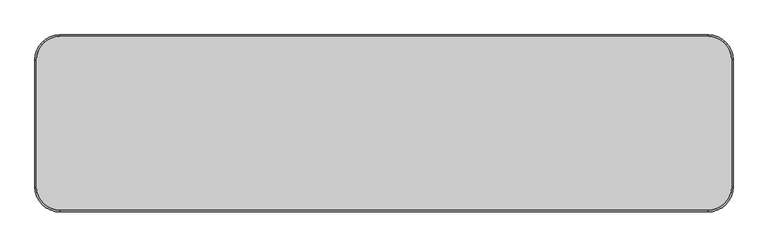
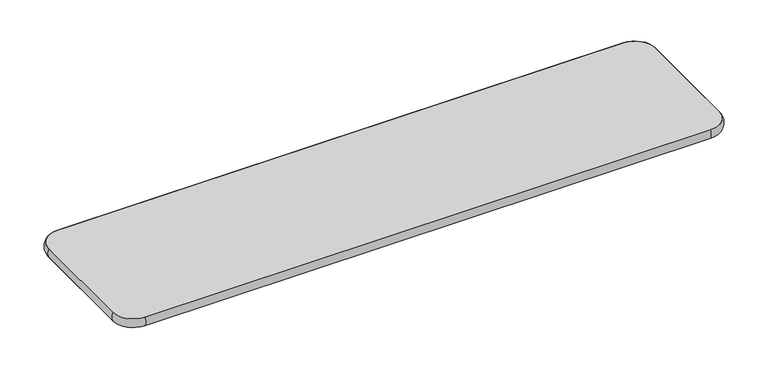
"""IFC4 building model written with IfcOpenShell, lengths in millimetres: furniture geometry, Banco para refeitório : Banco para refeitório 120x30cm cód 40470.4."""

from ifc_helpers import new_model, si_unit, point, frame, frame_2d, origin, place, context, project, spatial, polyline, circle_curve, ellipse_curve, trimmed, segment, composite_curve, outline, extrude, source, transform, mapped, element, save
from ifc_brep_helpers import plane_surface, cylinder_surface, revolved_surface, advanced_brep


def furniture_bbbb178f(model_context):
    return source(origin(), model_context, "Body", "SolidModel", [
        advanced_brep(
        [(600.0, -110.0, 380.0), (560.0, -150.0, 380.0), (560.0, -150.0, 362.0), (600.0, -110.0, 362.0), (600.0, 110.0, 362.0), (600.0, 110.0, 380.0), (560.0, 150.0, 380.0), (560.0, 150.0, 362.0), (-560.0, 150.0, 362.0), (-560.0, 150.0, 380.0), (-600.0, 110.0, 380.0), (-600.0, 110.0, 362.0), (-600.0, -110.0, 362.0), (-600.0, -110.0, 380.0), (-560.0, -150.0, 380.0), (-560.0, -150.0, 362.0)],
        [
            (0, 1, circle_curve(frame((560.0, -110.0, 380.0), z_axis=(0.0, 0.0, -1.0), x_axis=(0.0, -1.0, 0.0)), 40.0)),
            (1, 2, circle_curve(frame((560.0, -136.6032084, 371.0), z_axis=(1.0, 0.0, 0.0), x_axis=(0.0, 1.0, 0.0)), 16.1392077)),
            (2, 3, circle_curve(frame((560.0, -110.0, 362.0), z_axis=(0.0, 0.0, 1.0), x_axis=(0.0, -1.0, 0.0)), 40.0)),
            (3, 0, circle_curve(frame((586.6032084, -110.0, 371.0), z_axis=(0.0, -1.0, 0.0), x_axis=(-1.0, 0.0, 0.0)), 16.1392077)),
            (2, 1),
            (0, 3),
            (3, 4),
            (4, 5, circle_curve(frame((586.6032084, 110.0, 371.0), z_axis=(0.0, -1.0, 0.0), x_axis=(-1.0, 0.0, 0.0)), 16.1392077)),
            (5, 0),
            (5, 4),
            (6, 5, circle_curve(frame((560.0, 110.0, 380.0), z_axis=(0.0, 0.0, -1.0), x_axis=(1.0, 0.0, 0.0)), 40.0)),
            (4, 7, circle_curve(frame((560.0, 110.0, 362.0), z_axis=(0.0, 0.0, 1.0), x_axis=(1.0, 0.0, 0.0)), 40.0)),
            (7, 6, circle_curve(frame((560.0, 136.6032084, 371.0), z_axis=(1.0, 0.0, 0.0), x_axis=(0.0, -1.0, 0.0)), 16.1392077)),
            (6, 7),
            (7, 8),
            (8, 9, circle_curve(frame((-560.0, 136.6032084, 371.0), z_axis=(1.0, 0.0, 0.0), x_axis=(0.0, -1.0, 0.0)), 16.1392077)),
            (9, 6),
            (9, 8),
            (10, 9, circle_curve(frame((-560.0, 110.0, 380.0), z_axis=(0.0, 0.0, -1.0), x_axis=(0.0, 1.0, 0.0)), 40.0)),
            (8, 11, circle_curve(frame((-560.0, 110.0, 362.0), z_axis=(0.0, 0.0, 1.0), x_axis=(0.0, 1.0, 0.0)), 40.0)),
            (11, 10, circle_curve(frame((-586.6032084, 110.0, 371.0), z_axis=(0.0, 1.0, 0.0), x_axis=(1.0, 0.0, 0.0)), 16.1392077)),
            (10, 11),
            (11, 12),
            (12, 13, circle_curve(frame((-586.6032084, -110.0, 371.0), z_axis=(0.0, 1.0, 0.0), x_axis=(1.0, 0.0, 0.0)), 16.1392077)),
            (13, 10),
            (13, 12),
            (14, 13, circle_curve(frame((-560.0, -110.0, 380.0), z_axis=(0.0, 0.0, -1.0), x_axis=(-1.0, 0.0, 0.0)), 40.0)),
            (12, 15, circle_curve(frame((-560.0, -110.0, 362.0), z_axis=(0.0, 0.0, 1.0), x_axis=(-1.0, 0.0, 0.0)), 40.0)),
            (15, 14, circle_curve(frame((-560.0, -136.6032084, 371.0), z_axis=(-1.0, 0.0, 0.0), x_axis=(0.0, 1.0, 0.0)), 16.1392077)),
            (14, 15),
            (15, 2),
            (1, 14),
        ],
        [
            revolved_surface(trimmed(ellipse_curve(frame((560.0, -136.6032084, 371.0), z_axis=(-1.0, 0.0, 0.0), x_axis=(0.0, 1.0, 0.0)), 16.1392077, 16.1392077), [point((560.0, -150.0, 362.0))], [point((560.0, -150.0, 380.0))], True, "CARTESIAN"), (560.0, -110.0, 380.0), (0.0, 0.0, 1.0)),
            revolved_surface(polyline([(560.0, -150.0, 380.0), (560.0, -150.0, 362.0)]), (560.0, -110.0, 380.0), (0.0, 0.0, 1.0)),
            cylinder_surface(frame((586.6032084, -110.0, 371.0), z_axis=(0.0, -1.0, 0.0), x_axis=(-1.0, 0.0, 0.0)), 16.1392077),
            plane_surface(frame((600.0, -110.0, 380.0), z_axis=(-1.0, 0.0, 0.0), x_axis=(0.0, 1.0, 0.0))),
            revolved_surface(trimmed(ellipse_curve(frame((586.6032084, 110.0, 371.0), z_axis=(0.0, -1.0, 0.0), x_axis=(-1.0, 0.0, 0.0)), 16.1392077, 16.1392077), [point((600.0, 110.0, 362.0))], [point((600.0, 110.0, 380.0))], True, "CARTESIAN"), (560.0, 110.0, 380.0), (0.0, 0.0, 1.0)),
            revolved_surface(polyline([(600.0, 110.0, 380.0), (600.0, 110.0, 362.0)]), (560.0, 110.0, 380.0), (0.0, 0.0, 1.0)),
            cylinder_surface(frame((560.0, 136.6032084, 371.0), z_axis=(1.0, 0.0, 0.0), x_axis=(0.0, -1.0, 0.0)), 16.1392077),
            plane_surface(frame((560.0, 150.0, 380.0), z_axis=(0.0, -1.0, 0.0), x_axis=(-1.0, 0.0, 0.0))),
            revolved_surface(trimmed(ellipse_curve(frame((-560.0, 136.6032084, 371.0), z_axis=(1.0, 0.0, 0.0), x_axis=(0.0, -1.0, 0.0)), 16.1392077, 16.1392077), [point((-560.0, 150.0, 362.0))], [point((-560.0, 150.0, 380.0))], True, "CARTESIAN"), (-560.0, 110.0, 380.0), (0.0, 0.0, 1.0)),
            revolved_surface(polyline([(-560.0, 150.0, 380.0), (-560.0, 150.0, 362.0)]), (-560.0, 110.0, 380.0), (0.0, 0.0, 1.0)),
            cylinder_surface(frame((-586.6032084, 110.0, 371.0), z_axis=(0.0, 1.0, 0.0), x_axis=(1.0, 0.0, 0.0)), 16.1392077),
            plane_surface(frame((-600.0, 110.0, 380.0), z_axis=(1.0, 0.0, 0.0), x_axis=(0.0, -1.0, 0.0))),
            revolved_surface(trimmed(ellipse_curve(frame((-586.6032084, -110.0, 371.0), z_axis=(0.0, 1.0, 0.0), x_axis=(1.0, 0.0, 0.0)), 16.1392077, 16.1392077), [point((-600.0, -110.0, 362.0))], [point((-600.0, -110.0, 380.0))], True, "CARTESIAN"), (-560.0, -110.0, 380.0), (0.0, 0.0, 1.0)),
            revolved_surface(polyline([(-600.0, -110.0, 380.0), (-600.0, -110.0, 362.0)]), (-560.0, -110.0, 380.0), (0.0, 0.0, 1.0)),
            cylinder_surface(frame((-560.0, -136.6032084, 371.0), z_axis=(-1.0, 0.0, 0.0), x_axis=(0.0, 1.0, 0.0)), 16.1392077),
            plane_surface(frame((-560.0, -150.0, 380.0), z_axis=(0.0, 1.0, 0.0), x_axis=(1.0, 0.0, 0.0))),
        ],
        [
            (0, [[1, 2, 3, 4]]),
            (1, [[-3, 5, -1, 6]]),
            (2, [[-4, 7, 8, 9]]),
            (3, [[-6, -9, 10, -7]]),
            (4, [[11, -8, 12, 13]]),
            (5, [[-12, -10, -11, 14]]),
            (6, [[-13, 15, 16, 17]]),
            (7, [[-14, -17, 18, -15]]),
            (8, [[19, -16, 20, 21]]),
            (9, [[-20, -18, -19, 22]]),
            (10, [[-21, 23, 24, 25]]),
            (11, [[-22, -25, 26, -23]]),
            (12, [[27, -24, 28, 29]]),
            (13, [[-28, -26, -27, 30]]),
            (14, [[-29, 31, -2, 32]]),
            (15, [[-30, -32, -5, -31]]),
        ],
    ),
        extrude(outline(composite_curve([segment(trimmed(circle_curve(frame_2d((560.0, 110.0)), 40.0), [point((560.0, 150.0))], [point((600.0, 110.0))], False, "CARTESIAN"), True, "CONTINUOUS"), segment(polyline([(600.0, 110.0), (600.0, -110.0)]), True, "CONTINUOUS"), segment(trimmed(circle_curve(frame_2d((560.0, -110.0)), 40.0), [point((600.0, -110.0))], [point((560.0, -150.0))], False, "CARTESIAN"), True, "CONTINUOUS"), segment(polyline([(560.0, -150.0), (-560.0, -150.0)]), True, "CONTINUOUS"), segment(trimmed(circle_curve(frame_2d((-560.0, -110.0)), 40.0), [point((-560.0, -150.0))], [point((-600.0, -110.0))], False, "CARTESIAN"), True, "CONTINUOUS"), segment(polyline([(-600.0, -110.0), (-600.0, 110.0)]), True, "CONTINUOUS"), segment(trimmed(circle_curve(frame_2d((-560.0, 110.0)), 40.0), [point((-600.0, 110.0))], [point((-560.0, 150.0))], False, "CARTESIAN"), True, "CONTINUOUS"), segment(polyline([(-560.0, 150.0), (560.0, 150.0)]), True, "CONTINUOUS")], self_intersect=False)), frame((0.0, 0.0, 362.0), z_axis=(0.0, 0.0, 1.0), x_axis=(1.0, 0.0, 0.0)), (0.0, 0.0, 1.0), 18.0),
    ])


if __name__ == "__main__":
    model = new_model("IFC4")
    model_context = context("Model", 3, world=origin())
    ifc_project = project(units=[si_unit("LENGTHUNIT", "METRE", prefix="MILLI")], contexts=[model_context])
    site = spatial("IfcSite", under=ifc_project)
    building = spatial("IfcBuilding", under=site)
    placement = place(None, origin())
    furniture_shape = furniture_bbbb178f(model_context)
    element("IfcFurniture", 1, ObjectType="Banco para refeitório : Banco para refeitório 120x30cm cód 40470.4", at=placement, inside=building, context=model_context, shape_type="MappedRepresentation", body=[
        mapped(furniture_shape, transform((0.0, 0.0, 0.0), x_axis=(1.0, 0.0, 0.0), y_axis=(0.0, 1.0, 0.0), z_axis=(0.0, 0.0, 1.0))),
    ])
    save(model, "model.ifc")
